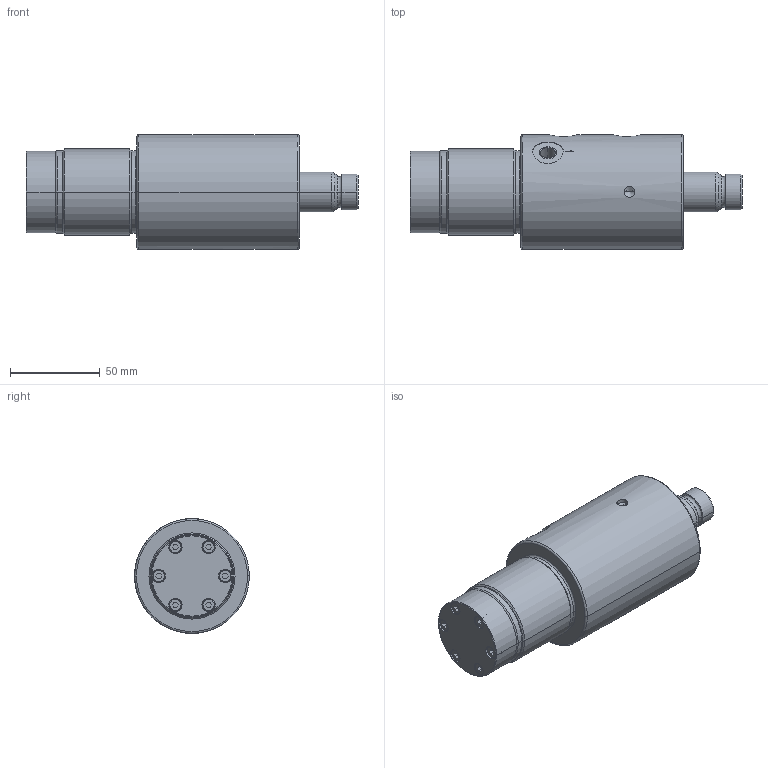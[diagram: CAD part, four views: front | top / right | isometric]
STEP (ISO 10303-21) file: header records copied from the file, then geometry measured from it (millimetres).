
FILE_DESCRIPTION((''),'2;1');
FILE_NAME('MPTL-100_ASM','2012-09-17T',('chad.steele'),(''),'PRO/ENGINEER BY PARAMETRIC TECHNOLOGY CORPORATION, 2010040','PRO/ENGINEER BY PARAMETRIC TECHNOLOGY CORPORATION, 2010040','');
FILE_SCHEMA(('CONFIG_CONTROL_DESIGN'));
Length unit declared in the file: millimetre
Products named in the file (6): CS241030; CS244047_WEDGE; CS208101; CV752040; CCA423028; MPTL-100_ASM
Assembly tree (10 placements, depth 2):
  MPTL-100_ASM
    CS241030
    CS244047_WEDGE
    CS208101
    CV752040
    CCA423028  x6
Bounding box: 185 x 64 x 64 mm (x, y, z)
Volume: 336471.8 mm3; surface area: 99389.4 mm2
Topology: 10 solids, 24 shells, 515 faces, 1228 edges, 760 vertices
Faces by surface type: plane 211, cylinder 170, cone 90, torus 44
Entity records: 12880 total; most frequent: CARTESIAN_POINT 2636, DIRECTION 2244, ORIENTED_EDGE 1964, EDGE_CURVE 1010, AXIS2_PLACEMENT_3D 884, VERTEX_POINT 640, EDGE_LOOP 494, VECTOR 476
